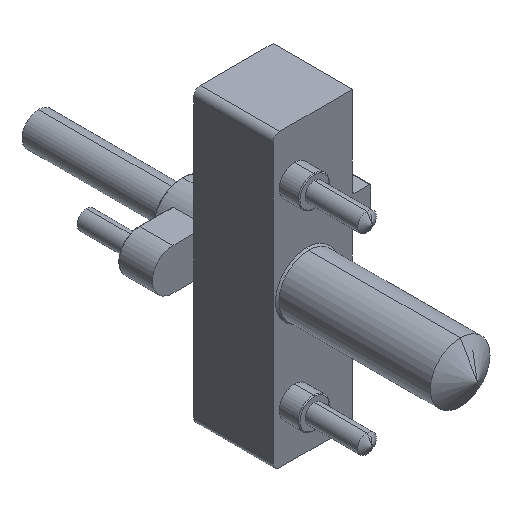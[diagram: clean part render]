
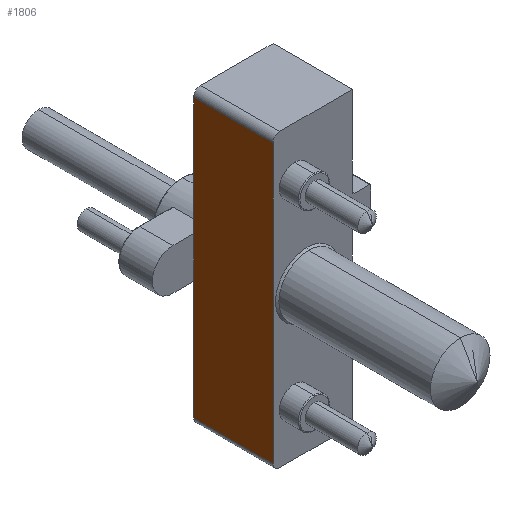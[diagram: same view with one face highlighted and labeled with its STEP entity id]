
A CAD part, isometric view. The second image highlights one B-rep face of the part: STEP entity #1806.
In plain terms, the highlighted planar face has unit normal (-1, 0, 0).
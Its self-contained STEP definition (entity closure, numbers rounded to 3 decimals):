
#4 = VERTEX_POINT ( 'NONE', #939 ) ;
#29 = CARTESIAN_POINT ( 'NONE',  ( -20.5, -48., -88. ) ) ;
#53 = VERTEX_POINT ( 'NONE', #650 ) ;
#73 = ORIENTED_EDGE ( 'NONE', *, *, #1178, .F. ) ;
#79 = ORIENTED_EDGE ( 'NONE', *, *, #802, .T. ) ;
#132 = VECTOR ( 'NONE', #436, 1000. ) ;
#192 = FACE_OUTER_BOUND ( 'NONE', #1202, .T. ) ;
#206 = EDGE_CURVE ( 'NONE', #4, #785, #707, .T. ) ;
#273 = CARTESIAN_POINT ( 'NONE',  ( -20.5, -48., 84. ) ) ;
#285 = ORIENTED_EDGE ( 'NONE', *, *, #1214, .T. ) ;
#286 = EDGE_CURVE ( 'NONE', #797, #785, #753, .T. ) ;
#290 = CARTESIAN_POINT ( 'NONE',  ( -20.5, 0., -88. ) ) ;
#355 = ORIENTED_EDGE ( 'NONE', *, *, #206, .T. ) ;
#383 = ORIENTED_EDGE ( 'NONE', *, *, #1018, .T. ) ;
#387 = VECTOR ( 'NONE', #1558, 1000. ) ;
#420 = CARTESIAN_POINT ( 'NONE',  ( -20.5, 0., 84. ) ) ;
#436 = DIRECTION ( 'NONE',  ( 0., 0., 1. ) ) ;
#449 = VECTOR ( 'NONE', #574, 1000. ) ;
#525 = LINE ( 'NONE', #1528, #387 ) ;
#533 = LINE ( 'NONE', #1913, #449 ) ;
#535 = CARTESIAN_POINT ( 'NONE',  ( -20.5, 0., 12.5 ) ) ;
#574 = DIRECTION ( 'NONE',  ( 0., 0., 1. ) ) ;
#626 = DIRECTION ( 'NONE',  ( -1., 0., 0. ) ) ;
#650 = CARTESIAN_POINT ( 'NONE',  ( -20.5, 0., -12.5 ) ) ;
#688 = VECTOR ( 'NONE', #1768, 1000. ) ;
#701 = CARTESIAN_POINT ( 'NONE',  ( -20.5, 0., -88. ) ) ;
#707 = LINE ( 'NONE', #273, #688 ) ;
#753 = LINE ( 'NONE', #290, #132 ) ;
#767 = AXIS2_PLACEMENT_3D ( 'NONE', #29, #626, #796 ) ;
#785 = VERTEX_POINT ( 'NONE', #420 ) ;
#796 = DIRECTION ( 'NONE',  ( 0., 0., 1. ) ) ;
#797 = VERTEX_POINT ( 'NONE', #535 ) ;
#802 = EDGE_CURVE ( 'NONE', #797, #53, #1127, .T. ) ;
#939 = CARTESIAN_POINT ( 'NONE',  ( -20.5, -48., 84. ) ) ;
#997 = LINE ( 'NONE', #1905, #1129 ) ;
#1018 = EDGE_CURVE ( 'NONE', #1268, #4, #525, .T. ) ;
#1083 = CARTESIAN_POINT ( 'NONE',  ( -20.5, 0., -84. ) ) ;
#1127 = LINE ( 'NONE', #701, #1512 ) ;
#1129 = VECTOR ( 'NONE', #1885, 1000. ) ;
#1178 = EDGE_CURVE ( 'NONE', #1458, #53, #533, .T. ) ;
#1202 = EDGE_LOOP ( 'NONE', ( #73, #285, #383, #355, #1334, #79 ) ) ;
#1214 = EDGE_CURVE ( 'NONE', #1458, #1268, #997, .T. ) ;
#1252 = PLANE ( 'NONE',  #767 ) ;
#1268 = VERTEX_POINT ( 'NONE', #1426 ) ;
#1298 = DIRECTION ( 'NONE',  ( 0., 0., -1. ) ) ;
#1334 = ORIENTED_EDGE ( 'NONE', *, *, #286, .F. ) ;
#1426 = CARTESIAN_POINT ( 'NONE',  ( -20.5, -48., -84. ) ) ;
#1458 = VERTEX_POINT ( 'NONE', #1083 ) ;
#1512 = VECTOR ( 'NONE', #1298, 1000. ) ;
#1528 = CARTESIAN_POINT ( 'NONE',  ( -20.5, -48., -88. ) ) ;
#1558 = DIRECTION ( 'NONE',  ( 0., 0., 1. ) ) ;
#1768 = DIRECTION ( 'NONE',  ( 0., 1., 0. ) ) ;
#1806 = ADVANCED_FACE ( 'NONE', ( #192 ), #1252, .T. ) ;
#1885 = DIRECTION ( 'NONE',  ( 0., -1., 0. ) ) ;
#1905 = CARTESIAN_POINT ( 'NONE',  ( -20.5, -48., -84. ) ) ;
#1913 = CARTESIAN_POINT ( 'NONE',  ( -20.5, 0., -88. ) ) ;
